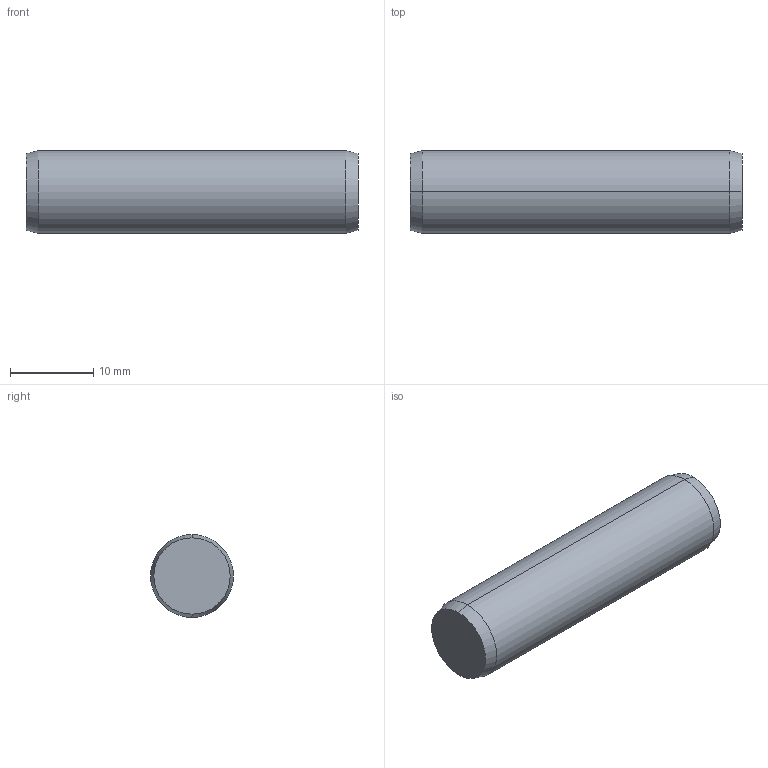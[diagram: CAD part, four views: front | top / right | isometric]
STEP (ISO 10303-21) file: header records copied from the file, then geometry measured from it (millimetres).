
FILE_DESCRIPTION (( 'STEP AP203' ), '1' );
FILE_NAME ('P1206.100-040.step', '2017-06-14T08:32:47', ( 'User' ), ( '' ), 'SwSTEP 2.0', 'SolidWorks 2009', '' );
FILE_SCHEMA (( 'CONFIG_CONTROL_DESIGN' ));
Length unit declared in the file: millimetre
Products named in the file (1): P1206.100-040
Bounding box: 40 x 10 x 10 mm (x, y, z)
Volume: 3123.2 mm3; surface area: 1388.9 mm2
Topology: 1 solids, 1 shells, 8 faces, 14 edges, 8 vertices
Faces by surface type: cone 4, cylinder 2, plane 2
Entity records: 271 total; most frequent: DIRECTION 40, CARTESIAN_POINT 31, ORIENTED_EDGE 28, AXIS2_PLACEMENT_3D 17, EDGE_CURVE 14, FACE_OUTER_BOUND 8, CIRCLE 8, EDGE_LOOP 8
